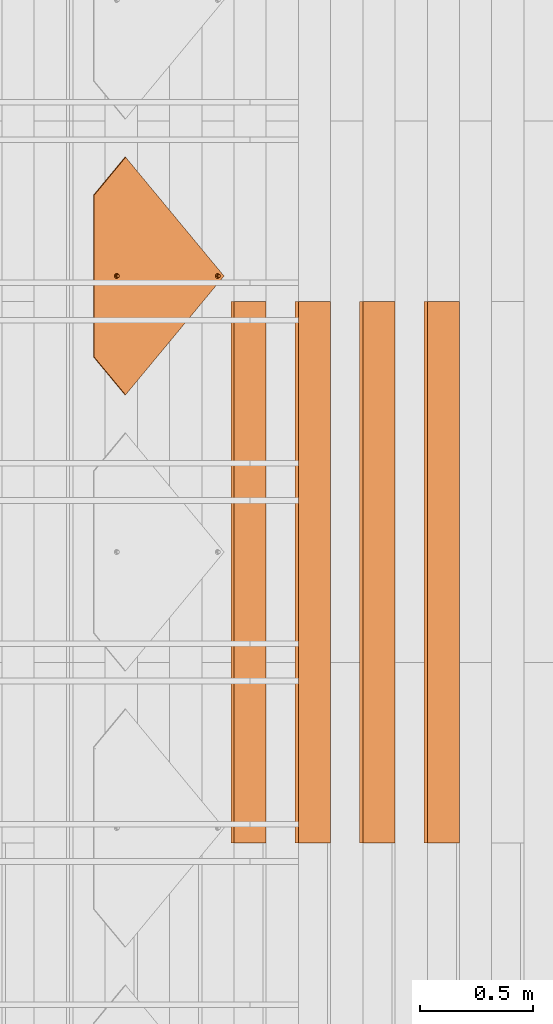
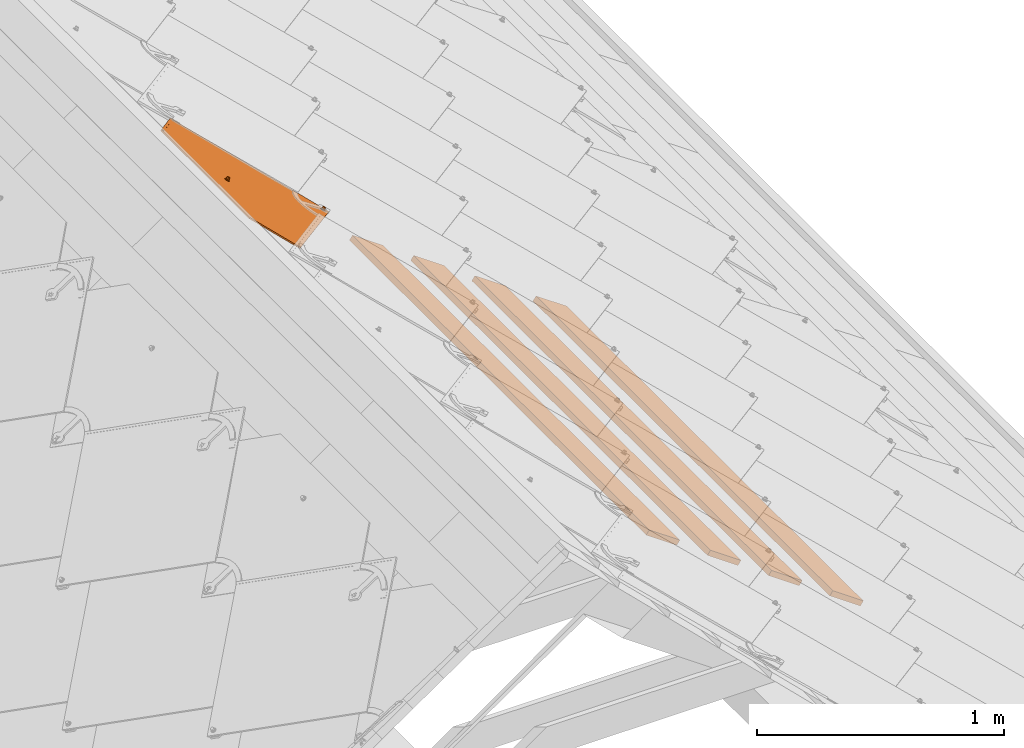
# One storey, part 42 of 151: 5 proxies, 1 element without a shape of its own.
"""IFC2X3 building model written with IfcOpenShell, lengths in millimetres."""

from ifc_helpers import new_model, entity, si_unit, converted_unit, derived_unit, direction, frame, frame_2d, origin, place, context, subcontext, project, spatial, rectangle, extrude, faceted_brep, source, transform, mapped, material, material_list, type_object, type_shapes, element, aggregate, save


model = new_model("IFC2X3")

# Units and contexts
model_context = context("Model", 3, precision=0.01, world=origin(), true_north=direction((6.12303176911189e-17, 1.0)))
body_context = subcontext(model_context, "Body", "Model", "MODEL_VIEW")
ifc_project = project(units=[si_unit("LENGTHUNIT", "METRE", prefix="MILLI"), si_unit("AREAUNIT", "SQUARE_METRE"), si_unit("VOLUMEUNIT", "CUBIC_METRE"), converted_unit("PLANEANGLEUNIT", "DEGREE", entity("IfcRatioMeasure", 0.0174532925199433), si_unit("PLANEANGLEUNIT", "RADIAN"), dimensions=[0, 0, 0, 0, 0, 0, 0]), si_unit("MASSUNIT", "GRAM", prefix="KILO"), derived_unit("MASSDENSITYUNIT", [(si_unit("MASSUNIT", "GRAM", prefix="KILO"), 1), (si_unit("LENGTHUNIT", "METRE"), -3)]), si_unit("TIMEUNIT", "SECOND"), si_unit("FREQUENCYUNIT", "HERTZ"), si_unit("THERMODYNAMICTEMPERATUREUNIT", "DEGREE_CELSIUS"), derived_unit("THERMALTRANSMITTANCEUNIT", [(si_unit("MASSUNIT", "GRAM", prefix="KILO"), 1), (si_unit("THERMODYNAMICTEMPERATUREUNIT", "KELVIN"), -1), (si_unit("TIMEUNIT", "SECOND"), -3)]), derived_unit("VOLUMETRICFLOWRATEUNIT", [(si_unit("LENGTHUNIT", "METRE"), 3), (si_unit("TIMEUNIT", "SECOND"), -1)]), si_unit("ELECTRICCURRENTUNIT", "AMPERE"), si_unit("ELECTRICVOLTAGEUNIT", "VOLT"), si_unit("POWERUNIT", "WATT"), si_unit("FORCEUNIT", "NEWTON", prefix="KILO"), si_unit("ILLUMINANCEUNIT", "LUX"), si_unit("LUMINOUSFLUXUNIT", "LUMEN"), si_unit("LUMINOUSINTENSITYUNIT", "CANDELA"), derived_unit("USERDEFINED", [(si_unit("MASSUNIT", "GRAM", prefix="KILO"), -1), (si_unit("LENGTHUNIT", "METRE"), -2), (si_unit("TIMEUNIT", "SECOND"), 3), (si_unit("LUMINOUSFLUXUNIT", "LUMEN"), 1)]), derived_unit("LINEARVELOCITYUNIT", [(si_unit("LENGTHUNIT", "METRE"), 1), (si_unit("TIMEUNIT", "SECOND"), -1)]), si_unit("PRESSUREUNIT", "PASCAL"), derived_unit("USERDEFINED", [(si_unit("LENGTHUNIT", "METRE"), -2), (si_unit("MASSUNIT", "GRAM", prefix="KILO"), 1), (si_unit("TIMEUNIT", "SECOND"), -2)])], contexts=[model_context])

# Site, building, storey
site_placement = place(None, origin())
site = spatial("IfcSite", under=ifc_project, at=site_placement, Name="Default", CompositionType="ELEMENT")
building_placement = place(site_placement, origin())
building = spatial("IfcBuilding", under=site, at=building_placement, CompositionType="ELEMENT")
storey_placement = place(building_placement, origin())
storey = spatial("IfcBuildingStorey", under=building, at=storey_placement, Name="Level 1", CompositionType="ELEMENT", Elevation=0.0)

# Assembly, proxies
assembly_placement = place(storey_placement, origin())
assembly = element("IfcElementAssembly", 1, at=assembly_placement, inside=storey, Name="Structural Framing Assembly:Roof Construction Assembly", ObjectType="Structural Framing Assembly:Roof Construction Assembly", AssemblyPlace="NOTDEFINED", PredefinedType="USERDEFINED")
ifc_material_1 = material(Name="Wood - Generic - Wood For Showcase")
building_element_proxy_type_1 = type_object("IfcBuildingElementProxyType", Name="Structural Framing 15", PredefinedType="NOTDEFINED", material=ifc_material_1)
shared_shape_1 = source(origin(), body_context, "Body", "SweptSolid", [
    extrude(rectangle(XDim=24.9999999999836, YDim=174.344679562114, at=frame_2d((2.22044604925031e-13, -1.63424829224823e-13), x_axis=(1.0, 0.0))), frame((1285.35601305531, 1595.55080214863, 2760.23940055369), z_axis=(0.0, 1.0, 0.0), x_axis=(0.573576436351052, 0.0, 0.819152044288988)), (0.0, 0.0, 1.0), 2400.00000000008),
])
type_shapes(building_element_proxy_type_1, [shared_shape_1])
proxy_1_placement = place(assembly_placement, frame((771.561874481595, -5740.0, -500.0)))
proxy_1 = element("IfcBuildingElementProxy", 2, at=proxy_1_placement, type_object=building_element_proxy_type_1, material=ifc_material_1, Name="Structural Framing 182:Structural Framing 15", ObjectType="Structural Framing 182:Structural Framing 15", context=body_context, shape_type="MappedRepresentation", body=[
    mapped(shared_shape_1, transform((0.0, 0.0, 0.0), scale=1.0)),
])
building_element_proxy_type_2 = type_object("IfcBuildingElementProxyType", Name="Structural Framing 15", PredefinedType="NOTDEFINED", material=ifc_material_1)
shared_shape_2 = source(origin(), body_context, "Body", "SweptSolid", [
    extrude(rectangle(XDim=24.9999999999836, YDim=174.344679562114, at=frame_2d((2.22044604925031e-13, -1.63424829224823e-13), x_axis=(1.0, 0.0))), frame((1285.35601305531, 1595.55080214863, 2760.23940055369), z_axis=(0.0, 1.0, 0.0), x_axis=(0.573576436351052, 0.0, 0.819152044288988)), (0.0, 0.0, 1.0), 2400.00000000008),
])
type_shapes(building_element_proxy_type_2, [shared_shape_2])
proxy_2_placement = place(assembly_placement, frame((1057.19147583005, -5740.0, -700.0)))
proxy_2 = element("IfcBuildingElementProxy", 3, at=proxy_2_placement, type_object=building_element_proxy_type_2, material=ifc_material_1, Name="Structural Framing 192:Structural Framing 15", ObjectType="Structural Framing 192:Structural Framing 15", context=body_context, shape_type="MappedRepresentation", body=[
    mapped(shared_shape_2, transform((0.0, 0.0, 0.0), scale=1.0)),
])
building_element_proxy_type_3 = type_object("IfcBuildingElementProxyType", Name="Structural Framing 15", PredefinedType="NOTDEFINED", material=ifc_material_1)
shared_shape_3 = source(origin(), body_context, "Body", "SweptSolid", [
    extrude(rectangle(XDim=24.9999999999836, YDim=174.344679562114, at=frame_2d((2.22044604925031e-13, -1.63424829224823e-13), x_axis=(1.0, 0.0))), frame((1285.35601305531, 1595.55080214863, 2760.23940055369), z_axis=(0.0, 1.0, 0.0), x_axis=(0.573576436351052, 0.0, 0.819152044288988)), (0.0, 0.0, 1.0), 2400.00000000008),
])
type_shapes(building_element_proxy_type_3, [shared_shape_3])
proxy_3_placement = place(assembly_placement, frame((1342.8210771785, -5740.0, -900.0)))
proxy_3 = element("IfcBuildingElementProxy", 4, at=proxy_3_placement, type_object=building_element_proxy_type_3, material=ifc_material_1, Name="Structural Framing 202:Structural Framing 15", ObjectType="Structural Framing 202:Structural Framing 15", context=body_context, shape_type="MappedRepresentation", body=[
    mapped(shared_shape_3, transform((0.0, 0.0, 0.0), scale=1.0)),
])
building_element_proxy_type_4 = type_object("IfcBuildingElementProxyType", Name="Structural Framing 15", PredefinedType="NOTDEFINED", material=ifc_material_1)
shared_shape_4 = source(origin(), body_context, "Body", "SweptSolid", [
    extrude(rectangle(XDim=24.9999999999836, YDim=174.344679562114, at=frame_2d((2.22044604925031e-13, -1.63424829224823e-13), x_axis=(1.0, 0.0))), frame((1285.35601305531, 1595.55080214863, 2760.23940055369), z_axis=(0.0, 1.0, 0.0), x_axis=(0.573576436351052, 0.0, 0.819152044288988)), (0.0, 0.0, 1.0), 2400.00000000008),
])
type_shapes(building_element_proxy_type_4, [shared_shape_4])
proxy_4_placement = place(assembly_placement, frame((1628.45067852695, -5740.0, -1100.0)))
proxy_4 = element("IfcBuildingElementProxy", 5, at=proxy_4_placement, type_object=building_element_proxy_type_4, material=ifc_material_1, Name="Structural Framing 212:Structural Framing 15", ObjectType="Structural Framing 212:Structural Framing 15", context=body_context, shape_type="MappedRepresentation", body=[
    mapped(shared_shape_4, transform((0.0, 0.0, 0.0), scale=1.0)),
])
aggregate(assembly, [proxy_1, proxy_2, proxy_3, proxy_4])

# Proxy
ifc_material_2 = material(Name="Rubber - Sunstyle - Black")
ifc_material_3 = material(Name="Glass - Sunstyle - Tainted Black")
ifc_material_list_1 = material_list([ifc_material_2, ifc_material_3])
ifc_material_list_2 = material_list([ifc_material_2, ifc_material_3])
building_element_proxy_type_5 = type_object("IfcBuildingElementProxyType", Name="Shingle Top - Black", PredefinedType="NOTDEFINED", material=ifc_material_list_2)
shared_shape_5 = source(origin(), body_context, "Body", "Brep", [
    faceted_brep([(-518.396436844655, -96.9865733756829, 16.4476231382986), (-518.396436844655, -96.9614556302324, 17.9474128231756), (-526.881123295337, -88.4767691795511, 17.8053154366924), (-526.881123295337, -88.5018869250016, 16.3055257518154), (-376.996804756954, 61.3404039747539, 13.7960402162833), (-368.512118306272, 52.8557175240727, 13.9381376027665), (-376.996804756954, 61.3655217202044, 15.2958299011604), (-368.512118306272, 52.8808352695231, 15.4379272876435)], [[[0, 1, 2, 3]], [[0, 3, 4, 5]], [[3, 2, 6, 4]], [[2, 1, 7, 6]], [[1, 0, 5, 7]], [[5, 4, 6, 7]]]),
    faceted_brep([(0.166366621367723, -33.6374645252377, -4.47296585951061), (-5.6078362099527, -36.9707346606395, -4.4171418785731), (-5.60783620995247, -36.6024255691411, 17.5747274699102), (0.166366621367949, -33.2691554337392, 17.5189034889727), (-5.60783620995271, -43.6372749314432, -4.30549391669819), (-5.60783620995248, -43.2689658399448, 17.6863754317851), (0.166366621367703, -46.9705450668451, -4.24966993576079), (0.166366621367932, -46.6022359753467, 17.7421994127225), (5.94056945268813, -43.6372749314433, -4.30549391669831), (5.94056945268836, -43.2689658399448, 17.686375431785), (5.94056945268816, -36.9707346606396, -4.41714187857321), (5.94056945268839, -36.6024255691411, 17.5747274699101), (-8.43733754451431, -48.5381935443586, 17.774621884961), (0.16636662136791, -52.1014648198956, 17.8342978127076), (-12.0011084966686, -39.9356957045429, 17.6305514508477), (-8.43733754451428, -31.3331978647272, 17.4864810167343), (0.166366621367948, -27.7699265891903, 17.4268050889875), (8.77007078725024, -31.3331978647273, 17.4864810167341), (12.3338417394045, -39.935695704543, 17.6305514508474), (8.77007078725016, -48.5381935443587, 17.7746218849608), (-11.1578780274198, -37.6406185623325, 19.9433933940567), (-9.59010793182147, -39.8646808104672, 21.8708760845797), (0.166366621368, -32.5516055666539, 22.5035764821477), (0.166366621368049, -31.3111079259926, 21.9232298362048), (0.166366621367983, -29.1535570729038, 20.9138547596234), (0.166366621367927, -51.5454208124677, 19.1093557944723), (0.166366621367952, -50.6018442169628, 21.273060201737), (0.166366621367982, -47.1524685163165, 22.7481046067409), (0.166366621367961, -28.2829626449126, 18.7197675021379), (-6.15687907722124, -43.5022527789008, 22.6869725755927), (-6.15687907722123, -36.2018213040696, 22.5647085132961), (11.4906112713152, -42.1520387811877, 20.0189484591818), (10.0152467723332, -40.9390872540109, 21.7920079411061), (6.48961231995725, -36.2018213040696, 22.564708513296), (6.48961231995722, -43.5022527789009, 22.6869725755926), (-6.15687907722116, -43.3682243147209, 30.68986075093), (0.166366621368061, -47.0184400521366, 30.7509927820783), (0.166366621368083, -39.7180085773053, 30.6287287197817), (-6.15687907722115, -36.0677928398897, 30.5675966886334), (6.48961231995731, -43.368224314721, 30.6898607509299), (6.48961231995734, -36.0677928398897, 30.5675966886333), (0.166366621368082, -32.417577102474, 30.5064646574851), (0.166366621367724, -40.3040047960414, -4.36131789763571)], [[[0, 1, 2, 3]], [[1, 4, 5, 2]], [[4, 6, 7, 5]], [[6, 8, 9, 7]], [[8, 10, 11, 9]], [[10, 0, 3, 11]], [[12, 7, 13]], [[7, 12, 5]], [[14, 5, 12]], [[5, 14, 2]], [[15, 2, 14]], [[3, 2, 15]], [[15, 16, 3]], [[16, 17, 3]], [[11, 3, 17]], [[11, 17, 18]], [[9, 11, 18]], [[18, 19, 9]], [[7, 9, 19]], [[19, 13, 7]], [[20, 14, 12]], [[21, 22, 23, 24]], [[24, 20, 21]], [[25, 20, 12]], [[26, 27, 21]], [[15, 14, 20]], [[12, 13, 25]], [[20, 28, 15]], [[28, 20, 24]], [[21, 27, 29]], [[21, 29, 30]], [[26, 21, 20]], [[20, 25, 26]], [[15, 28, 16]], [[21, 30, 22]], [[31, 18, 17]], [[28, 31, 17]], [[32, 27, 26]], [[26, 31, 32]], [[26, 25, 31]], [[25, 19, 31]], [[17, 16, 28]], [[31, 19, 18]], [[24, 31, 28]], [[33, 34, 32]], [[23, 22, 33]], [[24, 32, 31]], [[27, 32, 34]], [[32, 23, 33]], [[19, 25, 13]], [[32, 24, 23]], [[35, 36, 37]], [[37, 38, 35]], [[36, 39, 37]], [[40, 37, 39]], [[37, 40, 41]], [[37, 41, 38]], [[42, 6, 4]], [[4, 1, 42]], [[1, 0, 42]], [[42, 8, 6]], [[0, 10, 42]], [[8, 42, 10]], [[22, 30, 38, 41]], [[30, 29, 35, 38]], [[29, 27, 36, 35]], [[27, 34, 39, 36]], [[34, 33, 40, 39]], [[33, 22, 41, 40]]]),
    faceted_brep([(0.0, -573.927138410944, 4.00636906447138), (-5.77420283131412, -577.260408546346, 4.0621930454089), (-5.77420283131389, -576.892099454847, 26.0540623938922), (0.0, -573.558829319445, 25.9982384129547), (-5.77420283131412, -583.926948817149, 4.1738410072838), (-5.7742028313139, -583.558639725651, 26.1657103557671), (0.0, -587.260218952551, 4.2296649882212), (0.0, -586.891909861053, 26.2215343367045), (5.77420283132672, -583.926948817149, 4.17384100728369), (5.77420283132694, -583.558639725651, 26.165710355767), (5.77420283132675, -577.260408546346, 4.06219304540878), (5.77420283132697, -576.892099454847, 26.0540623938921), (-8.60370416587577, -588.827867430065, 26.253956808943), (0.0, -592.391138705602, 26.3136327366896), (-12.1674751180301, -580.225369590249, 26.1098863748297), (-8.60370416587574, -571.622871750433, 25.9658159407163), (0.0, -568.059600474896, 25.9061400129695), (8.60370416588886, -571.622871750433, 25.9658159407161), (12.1674751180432, -580.225369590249, 26.1098863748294), (8.60370416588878, -588.827867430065, 26.2539568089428), (-11.3242446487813, -577.930292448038, 28.4227283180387), (-9.75647455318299, -580.154354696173, 30.3502110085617), (0.0, -572.84127945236, 30.9829114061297), (0.0, -571.600781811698, 30.4025647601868), (0.0, -569.44323095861, 29.3931896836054), (0.0, -591.835094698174, 27.5886907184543), (0.0, -590.891518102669, 29.752395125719), (0.0, -587.442142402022, 31.227439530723), (0.0, -568.572636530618, 27.1991024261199), (-6.32324569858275, -583.791926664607, 31.1663074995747), (-6.32324569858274, -576.491495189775, 31.0440434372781), (11.3242446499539, -582.441712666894, 28.4982833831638), (9.84888015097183, -581.228761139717, 30.2713428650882), (6.32324569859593, -576.491495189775, 31.044043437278), (6.32324569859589, -583.791926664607, 31.1663074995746), (-6.32324569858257, -583.657898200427, 39.169195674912), (0.0, -587.308113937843, 39.2303277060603), (0.0, -580.007682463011, 39.1080636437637), (-6.32324569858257, -576.357466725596, 39.0469316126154), (6.32324569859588, -583.657898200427, 39.1691956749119), (6.32324569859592, -576.357466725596, 39.0469316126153), (0.0, -572.70725098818, 38.9857995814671), (0.0, -580.593678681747, 4.11801702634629)], [[[0, 1, 2, 3]], [[1, 4, 5, 2]], [[4, 6, 7, 5]], [[6, 8, 9, 7]], [[8, 10, 11, 9]], [[10, 0, 3, 11]], [[12, 7, 13]], [[7, 12, 5]], [[14, 5, 12]], [[5, 14, 2]], [[15, 2, 14]], [[3, 2, 15]], [[15, 16, 3]], [[16, 17, 3]], [[11, 3, 17]], [[11, 17, 18]], [[9, 11, 18]], [[18, 19, 9]], [[7, 9, 19]], [[19, 13, 7]], [[20, 14, 12]], [[21, 22, 23, 24]], [[24, 20, 21]], [[25, 20, 12]], [[26, 27, 21]], [[15, 14, 20]], [[12, 13, 25]], [[20, 28, 15]], [[28, 20, 24]], [[21, 27, 29]], [[21, 29, 30]], [[26, 21, 20]], [[20, 25, 26]], [[15, 28, 16]], [[21, 30, 22]], [[31, 18, 17]], [[28, 31, 17]], [[32, 27, 26]], [[26, 31, 32]], [[26, 25, 31]], [[25, 19, 31]], [[17, 16, 28]], [[31, 19, 18]], [[24, 31, 28]], [[33, 34, 32]], [[23, 22, 33]], [[24, 32, 31]], [[27, 32, 34]], [[32, 23, 33]], [[19, 25, 13]], [[32, 24, 23]], [[35, 36, 37]], [[37, 38, 35]], [[36, 39, 37]], [[40, 37, 39]], [[37, 40, 41]], [[37, 41, 38]], [[42, 6, 4]], [[4, 1, 42]], [[1, 0, 42]], [[42, 8, 6]], [[0, 10, 42]], [[8, 42, 10]], [[22, 30, 38, 41]], [[30, 29, 35, 38]], [[29, 27, 36, 35]], [[27, 34, 39, 36]], [[34, 33, 40, 39]], [[33, 22, 41, 40]]]),
    faceted_brep([(518.482751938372, -96.8754983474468, 17.9260478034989), (526.967438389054, -88.3908118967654, 17.7839504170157), (526.967438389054, -88.3656941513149, 19.2837401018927), (518.482751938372, -96.8503806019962, 19.4258374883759), (349.749400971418, 71.8105397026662, 15.1009763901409), (358.234087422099, 80.2952261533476, 14.9588790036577), (358.234087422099, 80.3203438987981, 16.4586686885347), (349.749400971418, 71.8356574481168, 16.6007660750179)], [[[0, 1, 2, 3]], [[1, 0, 4, 5]], [[2, 1, 5, 6]], [[3, 2, 6, 7]], [[0, 3, 7, 4]], [[4, 7, 6, 5]]]),
    faceted_brep([(358.234087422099, 80.2952261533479, 14.9588790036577), (6.94661128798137, -35.8890860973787, 16.9046771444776), (7.74581466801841, -37.8182632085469, 16.9369860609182), (5.67526230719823, -34.2324641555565, 16.8769328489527), (8.01840805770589, -39.8885252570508, 16.9716577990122), (7.74581466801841, -41.9587873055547, 17.0063295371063), (6.94661128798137, -43.8879644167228, 17.0386384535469), (526.967438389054, -88.3908118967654, 17.7839504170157), (4.01840805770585, -32.9612934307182, 16.855643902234), (2.08896041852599, -32.1622021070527, 16.8422611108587), (0.0184080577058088, -31.8896469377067, 16.8376964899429), (-358.233442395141, 80.2952261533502, 14.9588790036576), (-2.05214430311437, -32.1622021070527, 16.8422611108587), (-3.98159194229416, -32.9612934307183, 16.855643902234), (-5.63844619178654, -34.2324641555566, 16.8769328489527), (-6.90979517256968, -35.8890860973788, 16.9046771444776), (-7.70899855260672, -37.8182632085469, 16.9369860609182), (-7.98159194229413, -39.8885252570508, 16.9716577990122), (-7.70899855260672, -41.9587873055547, 17.0063295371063), (-6.90979517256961, -43.8879644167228, 17.0386384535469), (-526.966793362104, -88.390811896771, 17.7839504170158), (-5.63844619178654, -45.544586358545, 17.0663827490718), (-5.6568542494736, -574.226981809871, 25.9204974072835), (-6.92820323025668, -575.883603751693, 25.9482417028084), (-7.72740661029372, -577.812780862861, 25.980550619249), (-8.0, -579.883042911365, 26.015222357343), (-7.72740661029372, -581.953304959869, 26.049894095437), (0.000322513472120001, -615.210165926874, 26.6068637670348), (7.72740661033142, -581.953304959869, 26.049894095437), (6.92820323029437, -583.882482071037, 26.0822030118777), (5.65685424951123, -585.53910401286, 26.1099473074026), (4.0, -586.810274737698, 26.1312362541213), (2.070552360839, -587.609366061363, 26.1446190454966), (0.0, -587.881921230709, 26.1491836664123), (-2.0705523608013, -587.609366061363, 26.1446190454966), (-4.0, -586.810274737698, 26.1312362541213), (-5.65685424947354, -585.53910401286, 26.1099473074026), (-6.92820323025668, -583.882482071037, 26.0822030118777), (-4.0, -572.955811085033, 25.8992084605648), (-3.98159194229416, -46.8157570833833, 17.0876716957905), (-2.07055236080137, -572.156719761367, 25.8858256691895), (-2.05214430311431, -47.614848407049, 17.1010544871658), (0.0, -571.884164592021, 25.8812610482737), (0.0184080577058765, -47.8874035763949, 17.1056191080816), (2.07055236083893, -572.156719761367, 25.8858256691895), (2.08896041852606, -47.6148484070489, 17.1010544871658), (4.0, -572.955811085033, 25.8992084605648), (4.01840805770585, -46.8157570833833, 17.0876716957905), (5.65685424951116, -574.226981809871, 25.9204974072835), (5.67526230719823, -45.544586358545, 17.0663827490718), (6.92820323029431, -575.883603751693, 25.9482417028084), (7.72740661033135, -577.812780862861, 25.980550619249), (8.0, -579.883042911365, 26.015222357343), (-358.233442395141, 80.1947551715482, 8.9597202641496), (-6.90979517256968, -35.9895570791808, 10.9055184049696), (-7.70899855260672, -37.9187341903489, 10.9378273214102), (-5.63844619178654, -34.3329351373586, 10.8777741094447), (-7.98159194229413, -39.9889962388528, 10.9724990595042), (-7.70899855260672, -42.0592582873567, 11.0071707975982), (-6.90979517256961, -43.9884353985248, 11.0394797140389), (-526.966793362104, -88.4912828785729, 11.7847916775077), (-3.98159194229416, -33.0617644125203, 10.856485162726), (-2.05214430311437, -32.2626730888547, 10.8431023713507), (0.0184080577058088, -31.9901179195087, 10.8385377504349), (358.234087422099, 80.1947551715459, 8.95972026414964), (2.08896041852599, -32.2626730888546, 10.8431023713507), (4.01840805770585, -33.0617644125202, 10.856485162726), (5.67526230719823, -34.3329351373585, 10.8777741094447), (6.94661128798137, -35.9895570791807, 10.9055184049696), (7.74581466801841, -37.9187341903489, 10.9378273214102), (8.01840805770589, -39.9889962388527, 10.9724990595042), (7.74581466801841, -42.0592582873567, 11.0071707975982), (6.94661128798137, -43.9884353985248, 11.0394797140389), (526.967438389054, -88.4912828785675, 11.7847916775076), (5.67526230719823, -45.645057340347, 11.0672240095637), (5.65685424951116, -574.327452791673, 19.9213386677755), (6.92820323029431, -575.984074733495, 19.9490829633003), (7.72740661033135, -577.913251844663, 19.981391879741), (8.0, -579.983513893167, 20.016063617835), (7.72740661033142, -582.053775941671, 20.050735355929), (0.000322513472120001, -615.310636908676, 20.6077050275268), (-7.72740661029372, -582.053775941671, 20.050735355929), (-6.92820323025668, -583.982953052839, 20.0830442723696), (-5.65685424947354, -585.639574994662, 20.1107885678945), (-4.0, -586.9107457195, 20.1320775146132), (-2.0705523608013, -587.709837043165, 20.1454603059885), (0.0, -587.982392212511, 20.1500249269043), (2.070552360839, -587.709837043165, 20.1454603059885), (4.0, -586.9107457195, 20.1320775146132), (5.65685424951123, -585.639574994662, 20.1107885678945), (6.92820323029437, -583.982953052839, 20.0830442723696), (4.01840805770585, -46.9162280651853, 11.0885129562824), (4.0, -573.056282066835, 19.9000497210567), (2.08896041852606, -47.7153193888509, 11.1018957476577), (2.07055236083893, -572.257190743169, 19.8866669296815), (0.0184080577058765, -47.9878745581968, 11.1064603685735), (0.0, -571.984635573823, 19.8821023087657), (-2.05214430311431, -47.7153193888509, 11.1018957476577), (-2.07055236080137, -572.257190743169, 19.8866669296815), (-3.98159194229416, -46.9162280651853, 11.0885129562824), (-4.0, -573.056282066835, 19.9000497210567), (-5.63844619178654, -45.645057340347, 11.0672240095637), (-5.6568542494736, -574.327452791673, 19.9213386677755), (-6.92820323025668, -575.984074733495, 19.9490829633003), (-7.72740661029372, -577.913251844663, 19.981391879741), (-8.0, -579.983513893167, 20.016063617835)], [[[0, 1, 2]], [[1, 0, 3]], [[0, 2, 4]], [[4, 5, 0]], [[5, 6, 0]], [[7, 0, 6]], [[8, 3, 0]], [[9, 8, 0]], [[10, 9, 0]], [[0, 11, 10]], [[12, 10, 11]], [[13, 12, 11]], [[14, 13, 11]], [[11, 15, 14]], [[15, 11, 16]], [[16, 11, 17]], [[11, 18, 17]], [[18, 11, 19]], [[11, 20, 19]], [[19, 20, 21]], [[20, 22, 21]], [[23, 22, 20]], [[24, 23, 20]], [[24, 20, 25]], [[26, 25, 20]], [[27, 26, 20]], [[7, 28, 27]], [[29, 27, 28]], [[27, 29, 30]], [[30, 31, 27]], [[31, 32, 27]], [[27, 32, 33]], [[27, 33, 34]], [[34, 35, 27]], [[27, 35, 36]], [[36, 37, 27]], [[37, 26, 27]], [[38, 21, 22]], [[38, 39, 21]], [[38, 40, 39]], [[40, 41, 39]], [[40, 42, 41]], [[41, 42, 43]], [[44, 43, 42]], [[44, 45, 43]], [[45, 44, 46]], [[46, 47, 45]], [[46, 48, 47]], [[48, 49, 47]], [[50, 7, 48]], [[48, 7, 49]], [[7, 50, 51]], [[7, 51, 52]], [[52, 28, 7]], [[7, 6, 49]], [[53, 54, 55]], [[54, 53, 56]], [[53, 55, 57]], [[58, 53, 57]], [[59, 53, 58]], [[60, 53, 59]], [[61, 56, 53]], [[62, 61, 53]], [[53, 63, 62]], [[63, 53, 64]], [[65, 63, 64]], [[66, 65, 64]], [[64, 67, 66]], [[67, 64, 68]], [[68, 64, 69]], [[70, 69, 64]], [[71, 70, 64]], [[72, 71, 64]], [[72, 64, 73]], [[72, 73, 74]], [[74, 73, 75]], [[73, 76, 75]], [[76, 73, 77]], [[77, 73, 78]], [[79, 78, 73]], [[79, 73, 80]], [[60, 81, 80]], [[80, 81, 82]], [[80, 82, 83]], [[83, 84, 80]], [[84, 85, 80]], [[85, 86, 80]], [[80, 86, 87]], [[80, 87, 88]], [[80, 88, 89]], [[79, 80, 90]], [[80, 89, 90]], [[75, 91, 74]], [[75, 92, 91]], [[92, 93, 91]], [[93, 92, 94]], [[93, 94, 95]], [[96, 95, 94]], [[97, 95, 96]], [[96, 98, 97]], [[98, 99, 97]], [[98, 100, 99]], [[100, 101, 99]], [[100, 102, 101]], [[60, 101, 102]], [[103, 60, 102]], [[103, 104, 60]], [[104, 105, 60]], [[105, 81, 60]], [[59, 101, 60]], [[27, 20, 60, 80]], [[7, 27, 80, 73]], [[0, 7, 73, 64]], [[25, 105, 104, 24]], [[24, 104, 103, 23]], [[38, 22, 102, 100]], [[102, 22, 23, 103]], [[40, 38, 100, 98]], [[40, 98, 96, 42]], [[42, 96, 94, 44]], [[44, 94, 92, 46]], [[50, 48, 75, 76]], [[75, 48, 46, 92]], [[51, 50, 76, 77]], [[51, 77, 78, 52]], [[52, 78, 79, 28]], [[28, 79, 90, 29]], [[31, 30, 89, 88]], [[29, 90, 89, 30]], [[87, 32, 31, 88]], [[32, 87, 86, 33]], [[34, 33, 86, 85]], [[34, 85, 84, 35]], [[37, 36, 83, 82]], [[35, 84, 83, 36]], [[37, 82, 81, 26]], [[26, 81, 105, 25]], [[17, 57, 55, 16]], [[16, 55, 54, 15]], [[13, 14, 56, 61]], [[56, 14, 15, 54]], [[12, 13, 61, 62]], [[12, 62, 63, 10]], [[10, 63, 65, 9]], [[9, 65, 66, 8]], [[1, 3, 67, 68]], [[67, 3, 8, 66]], [[2, 1, 68, 69]], [[2, 69, 70, 4]], [[4, 70, 71, 5]], [[5, 71, 72, 6]], [[47, 49, 74, 91]], [[74, 49, 6, 72]], [[45, 47, 91, 93]], [[45, 93, 95, 43]], [[43, 95, 97, 41]], [[41, 97, 99, 39]], [[19, 21, 101, 59]], [[101, 21, 39, 99]], [[18, 19, 59, 58]], [[18, 58, 57, 17]], [[11, 0, 64, 53]], [[20, 11, 53, 60]]]),
])
type_shapes(building_element_proxy_type_5, [shared_shape_5])
proxy_5_placement = place(storey_placement, frame((1429.25691597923, -1631.575186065, 2714.99202663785), z_axis=(0.573576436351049, 0.0, 0.81915204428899), x_axis=(0.0, 1.0, 0.0)))
element("IfcBuildingElementProxy", 6, at=proxy_5_placement, inside=storey, type_object=building_element_proxy_type_5, material=ifc_material_list_1, Name="Roofing_Panels_SunStyle_Tile_Shingle-Top:Shingle Top - Black", ObjectType="Roofing_Panels_SunStyle_Tile_Shingle-Top:Shingle Top - Black", context=body_context, shape_type="MappedRepresentation", body=[
    mapped(shared_shape_5, transform((0.0, 0.0, 0.0), scale=1.0)),
])

save(model, "model.ifc")
